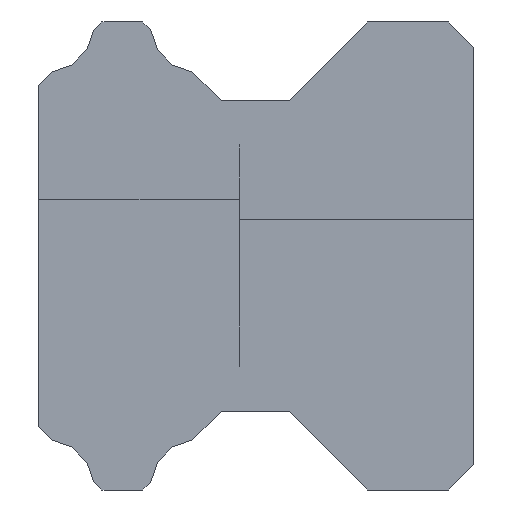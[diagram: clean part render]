
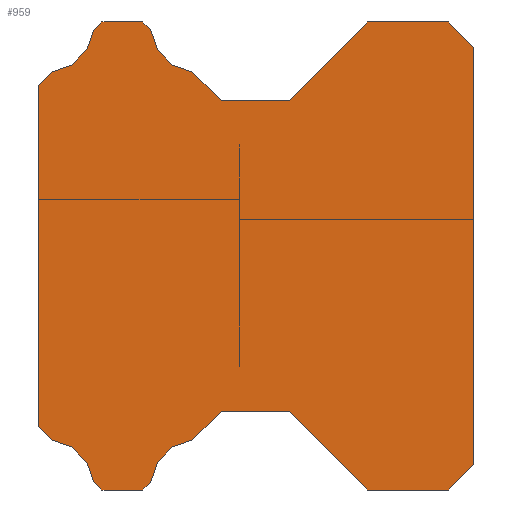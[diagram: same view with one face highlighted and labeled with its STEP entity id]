
A CAD part, left-side view. The second image highlights one B-rep face of the part: STEP entity #959.
In plain terms, the highlighted planar face has unit normal (-1, 0, 0).
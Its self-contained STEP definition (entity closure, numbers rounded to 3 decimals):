
#237=CARTESIAN_POINT('Vertex',(-20.,1.5,14.)) ;
#242=CARTESIAN_POINT('Line Origine',(-20.,0.75,13.25)) ;
#246=CARTESIAN_POINT('Vertex',(-20.,0.,12.5)) ;
#277=CARTESIAN_POINT('Vertex',(-20.,0.,-12.5)) ;
#282=CARTESIAN_POINT('Line Origine',(-20.,0.75,-13.25)) ;
#286=CARTESIAN_POINT('Vertex',(-20.,1.5,-14.)) ;
#313=CARTESIAN_POINT('Line Origine',(-20.,3.9,-14.)) ;
#317=CARTESIAN_POINT('Vertex',(-20.,6.3,-14.)) ;
#344=CARTESIAN_POINT('Line Origine',(-20.,8.65,-11.65)) ;
#348=CARTESIAN_POINT('Vertex',(-20.,11.,-9.3)) ;
#375=CARTESIAN_POINT('Line Origine',(-20.,13.04,-9.3)) ;
#379=CARTESIAN_POINT('Vertex',(-20.,15.079,-9.3)) ;
#406=CARTESIAN_POINT('Line Origine',(-20.,15.929,-10.15)) ;
#410=CARTESIAN_POINT('Vertex',(-20.,16.779,-11.)) ;
#437=CARTESIAN_POINT('Axis2P3D Location',(-20.,16.44,-13.87)) ;
#441=CARTESIAN_POINT('Vertex',(-20.,19.31,-13.531)) ;
#468=CARTESIAN_POINT('Line Origine',(-20.,19.545,-13.765)) ;
#472=CARTESIAN_POINT('Vertex',(-20.,19.779,-14.)) ;
#494=CARTESIAN_POINT('Line Origine',(-20.,20.997,-14.)) ;
#498=CARTESIAN_POINT('Vertex',(-20.,22.215,-14.)) ;
#525=CARTESIAN_POINT('Line Origine',(-20.,22.453,-13.762)) ;
#529=CARTESIAN_POINT('Vertex',(-20.,22.69,-13.525)) ;
#556=CARTESIAN_POINT('Axis2P3D Location',(-20.,25.56,-13.87)) ;
#560=CARTESIAN_POINT('Vertex',(-20.,25.215,-11.)) ;
#587=CARTESIAN_POINT('Line Origine',(-20.,25.607,-10.608)) ;
#591=CARTESIAN_POINT('Vertex',(-20.,26.,-10.215)) ;
#622=CARTESIAN_POINT('Vertex',(-20.,26.,10.215)) ;
#627=CARTESIAN_POINT('Line Origine',(-20.,25.607,10.608)) ;
#631=CARTESIAN_POINT('Vertex',(-20.,25.215,11.)) ;
#658=CARTESIAN_POINT('Axis2P3D Location',(-20.,25.56,13.87)) ;
#662=CARTESIAN_POINT('Vertex',(-20.,22.69,13.525)) ;
#689=CARTESIAN_POINT('Line Origine',(-20.,22.453,13.762)) ;
#693=CARTESIAN_POINT('Vertex',(-20.,22.215,14.)) ;
#720=CARTESIAN_POINT('Line Origine',(-20.,20.997,14.)) ;
#724=CARTESIAN_POINT('Vertex',(-20.,19.779,14.)) ;
#751=CARTESIAN_POINT('Line Origine',(-20.,19.545,13.765)) ;
#755=CARTESIAN_POINT('Vertex',(-20.,19.31,13.531)) ;
#782=CARTESIAN_POINT('Axis2P3D Location',(-20.,16.44,13.87)) ;
#786=CARTESIAN_POINT('Vertex',(-20.,16.779,11.)) ;
#813=CARTESIAN_POINT('Line Origine',(-20.,15.929,10.15)) ;
#817=CARTESIAN_POINT('Vertex',(-20.,15.079,9.3)) ;
#844=CARTESIAN_POINT('Line Origine',(-20.,13.04,9.3)) ;
#848=CARTESIAN_POINT('Vertex',(-20.,11.,9.3)) ;
#875=CARTESIAN_POINT('Line Origine',(-20.,8.65,11.65)) ;
#879=CARTESIAN_POINT('Vertex',(-20.,6.3,14.)) ;
#901=CARTESIAN_POINT('Line Origine',(-20.,3.9,14.)) ;
#918=CARTESIAN_POINT('Axis2P3D Location',(-20.,0.,0.)) ;
#923=CARTESIAN_POINT('Line Origine',(-20.,26.,0.)) ;
#928=CARTESIAN_POINT('Line Origine',(-20.,0.,0.)) ;
#243=DIRECTION('Vector Direction',(0.,-0.707,-0.707)) ;
#283=DIRECTION('Vector Direction',(0.,0.707,-0.707)) ;
#314=DIRECTION('Vector Direction',(0.,1.,0.)) ;
#345=DIRECTION('Vector Direction',(0.,0.707,0.707)) ;
#376=DIRECTION('Vector Direction',(0.,1.,0.)) ;
#407=DIRECTION('Vector Direction',(0.,0.707,-0.707)) ;
#438=DIRECTION('Axis2P3D Direction',(1.,-0.,0.)) ;
#469=DIRECTION('Vector Direction',(0.,0.707,-0.707)) ;
#495=DIRECTION('Vector Direction',(0.,1.,0.)) ;
#526=DIRECTION('Vector Direction',(0.,0.707,0.707)) ;
#557=DIRECTION('Axis2P3D Direction',(1.,-0.,0.)) ;
#588=DIRECTION('Vector Direction',(0.,0.707,0.707)) ;
#628=DIRECTION('Vector Direction',(0.,-0.707,0.707)) ;
#659=DIRECTION('Axis2P3D Direction',(1.,-0.,0.)) ;
#690=DIRECTION('Vector Direction',(0.,-0.707,0.707)) ;
#721=DIRECTION('Vector Direction',(0.,-1.,0.)) ;
#752=DIRECTION('Vector Direction',(0.,-0.707,-0.707)) ;
#783=DIRECTION('Axis2P3D Direction',(1.,-0.,0.)) ;
#814=DIRECTION('Vector Direction',(0.,-0.707,-0.707)) ;
#845=DIRECTION('Vector Direction',(0.,-1.,0.)) ;
#876=DIRECTION('Vector Direction',(0.,-0.707,0.707)) ;
#902=DIRECTION('Vector Direction',(0.,-1.,0.)) ;
#919=DIRECTION('Axis2P3D Direction',(1.,-0.,0.)) ;
#920=DIRECTION('Axis2P3D XDirection',(0.,0.,-1.)) ;
#924=DIRECTION('Vector Direction',(0.,0.,1.)) ;
#929=DIRECTION('Vector Direction',(0.,0.,-1.)) ;
#439=AXIS2_PLACEMENT_3D('Circle Axis2P3D',#437,#438,$) ;
#558=AXIS2_PLACEMENT_3D('Circle Axis2P3D',#556,#557,$) ;
#660=AXIS2_PLACEMENT_3D('Circle Axis2P3D',#658,#659,$) ;
#784=AXIS2_PLACEMENT_3D('Circle Axis2P3D',#782,#783,$) ;
#921=AXIS2_PLACEMENT_3D('Plane Axis2P3D',#918,#919,#920) ;
#934=ORIENTED_EDGE('',*,*,#905,.F.) ;
#935=ORIENTED_EDGE('',*,*,#881,.F.) ;
#936=ORIENTED_EDGE('',*,*,#850,.F.) ;
#937=ORIENTED_EDGE('',*,*,#819,.F.) ;
#938=ORIENTED_EDGE('',*,*,#788,.F.) ;
#939=ORIENTED_EDGE('',*,*,#757,.F.) ;
#940=ORIENTED_EDGE('',*,*,#726,.F.) ;
#941=ORIENTED_EDGE('',*,*,#695,.F.) ;
#942=ORIENTED_EDGE('',*,*,#664,.F.) ;
#943=ORIENTED_EDGE('',*,*,#633,.F.) ;
#944=ORIENTED_EDGE('',*,*,#927,.F.) ;
#945=ORIENTED_EDGE('',*,*,#593,.F.) ;
#946=ORIENTED_EDGE('',*,*,#562,.F.) ;
#947=ORIENTED_EDGE('',*,*,#531,.F.) ;
#948=ORIENTED_EDGE('',*,*,#500,.F.) ;
#949=ORIENTED_EDGE('',*,*,#474,.F.) ;
#950=ORIENTED_EDGE('',*,*,#443,.F.) ;
#951=ORIENTED_EDGE('',*,*,#412,.F.) ;
#952=ORIENTED_EDGE('',*,*,#381,.F.) ;
#953=ORIENTED_EDGE('',*,*,#350,.F.) ;
#954=ORIENTED_EDGE('',*,*,#319,.F.) ;
#955=ORIENTED_EDGE('',*,*,#288,.F.) ;
#956=ORIENTED_EDGE('',*,*,#932,.F.) ;
#957=ORIENTED_EDGE('',*,*,#248,.F.) ;
#244=VECTOR('Line Direction',#243,1.) ;
#284=VECTOR('Line Direction',#283,1.) ;
#315=VECTOR('Line Direction',#314,1.) ;
#346=VECTOR('Line Direction',#345,1.) ;
#377=VECTOR('Line Direction',#376,1.) ;
#408=VECTOR('Line Direction',#407,1.) ;
#470=VECTOR('Line Direction',#469,1.) ;
#496=VECTOR('Line Direction',#495,1.) ;
#527=VECTOR('Line Direction',#526,1.) ;
#589=VECTOR('Line Direction',#588,1.) ;
#629=VECTOR('Line Direction',#628,1.) ;
#691=VECTOR('Line Direction',#690,1.) ;
#722=VECTOR('Line Direction',#721,1.) ;
#753=VECTOR('Line Direction',#752,1.) ;
#815=VECTOR('Line Direction',#814,1.) ;
#846=VECTOR('Line Direction',#845,1.) ;
#877=VECTOR('Line Direction',#876,1.) ;
#903=VECTOR('Line Direction',#902,1.) ;
#925=VECTOR('Line Direction',#924,1.) ;
#930=VECTOR('Line Direction',#929,1.) ;
#959=ADVANCED_FACE('HSV30_Rail',(#958),#922,.F.) ;
#440=CIRCLE('generated circle',#439,2.89) ;
#559=CIRCLE('generated circle',#558,2.89) ;
#661=CIRCLE('generated circle',#660,2.89) ;
#785=CIRCLE('generated circle',#784,2.89) ;
#248=EDGE_CURVE('',#238,#247,#245,.T.) ;
#288=EDGE_CURVE('',#278,#287,#285,.T.) ;
#319=EDGE_CURVE('',#287,#318,#316,.T.) ;
#350=EDGE_CURVE('',#318,#349,#347,.T.) ;
#381=EDGE_CURVE('',#349,#380,#378,.T.) ;
#412=EDGE_CURVE('',#380,#411,#409,.T.) ;
#443=EDGE_CURVE('',#411,#442,#440,.F.) ;
#474=EDGE_CURVE('',#442,#473,#471,.T.) ;
#500=EDGE_CURVE('',#473,#499,#497,.T.) ;
#531=EDGE_CURVE('',#499,#530,#528,.T.) ;
#562=EDGE_CURVE('',#530,#561,#559,.F.) ;
#593=EDGE_CURVE('',#561,#592,#590,.T.) ;
#633=EDGE_CURVE('',#623,#632,#630,.T.) ;
#664=EDGE_CURVE('',#632,#663,#661,.F.) ;
#695=EDGE_CURVE('',#663,#694,#692,.T.) ;
#726=EDGE_CURVE('',#694,#725,#723,.T.) ;
#757=EDGE_CURVE('',#725,#756,#754,.T.) ;
#788=EDGE_CURVE('',#756,#787,#785,.F.) ;
#819=EDGE_CURVE('',#787,#818,#816,.T.) ;
#850=EDGE_CURVE('',#818,#849,#847,.T.) ;
#881=EDGE_CURVE('',#849,#880,#878,.T.) ;
#905=EDGE_CURVE('',#880,#238,#904,.T.) ;
#927=EDGE_CURVE('',#592,#623,#926,.T.) ;
#932=EDGE_CURVE('',#247,#278,#931,.T.) ;
#933=EDGE_LOOP('',(#934,#935,#936,#937,#938,#939,#940,#941,#942,#943,#944,#945,#946,#947,#948,#949,#950,#951,#952,#953,#954,#955,#956,#957)) ;
#958=FACE_OUTER_BOUND('',#933,.T.) ;
#245=LINE('Line',#242,#244) ;
#285=LINE('Line',#282,#284) ;
#316=LINE('Line',#313,#315) ;
#347=LINE('Line',#344,#346) ;
#378=LINE('Line',#375,#377) ;
#409=LINE('Line',#406,#408) ;
#471=LINE('Line',#468,#470) ;
#497=LINE('Line',#494,#496) ;
#528=LINE('Line',#525,#527) ;
#590=LINE('Line',#587,#589) ;
#630=LINE('Line',#627,#629) ;
#692=LINE('Line',#689,#691) ;
#723=LINE('Line',#720,#722) ;
#754=LINE('Line',#751,#753) ;
#816=LINE('Line',#813,#815) ;
#847=LINE('Line',#844,#846) ;
#878=LINE('Line',#875,#877) ;
#904=LINE('Line',#901,#903) ;
#926=LINE('Line',#923,#925) ;
#931=LINE('Line',#928,#930) ;
#922=PLANE('',#921) ;
#238=VERTEX_POINT('',#237) ;
#247=VERTEX_POINT('',#246) ;
#278=VERTEX_POINT('',#277) ;
#287=VERTEX_POINT('',#286) ;
#318=VERTEX_POINT('',#317) ;
#349=VERTEX_POINT('',#348) ;
#380=VERTEX_POINT('',#379) ;
#411=VERTEX_POINT('',#410) ;
#442=VERTEX_POINT('',#441) ;
#473=VERTEX_POINT('',#472) ;
#499=VERTEX_POINT('',#498) ;
#530=VERTEX_POINT('',#529) ;
#561=VERTEX_POINT('',#560) ;
#592=VERTEX_POINT('',#591) ;
#623=VERTEX_POINT('',#622) ;
#632=VERTEX_POINT('',#631) ;
#663=VERTEX_POINT('',#662) ;
#694=VERTEX_POINT('',#693) ;
#725=VERTEX_POINT('',#724) ;
#756=VERTEX_POINT('',#755) ;
#787=VERTEX_POINT('',#786) ;
#818=VERTEX_POINT('',#817) ;
#849=VERTEX_POINT('',#848) ;
#880=VERTEX_POINT('',#879) ;
